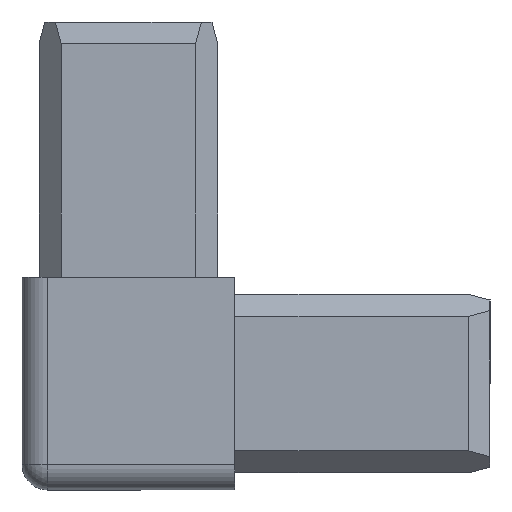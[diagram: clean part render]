
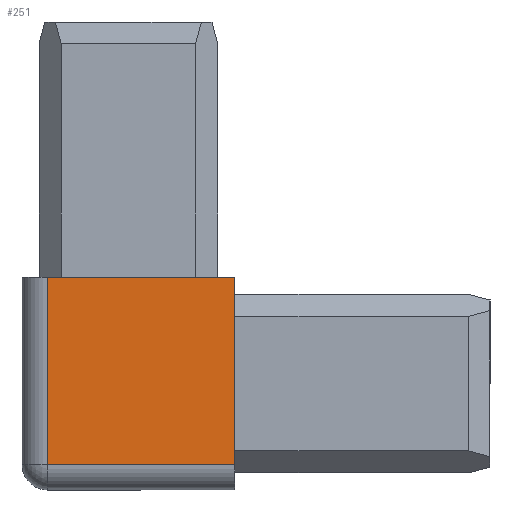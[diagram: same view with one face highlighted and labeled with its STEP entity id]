
A CAD part, left-side view. The second image highlights one B-rep face of the part: STEP entity #251.
In plain terms, the highlighted planar face has unit normal (-1, 0, 0).
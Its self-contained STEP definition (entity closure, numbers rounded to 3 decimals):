
#9 = LINE ( 'NONE', #721, #1585 ) ;
#10 = ORIENTED_EDGE ( 'NONE', *, *, #577, .T. ) ;
#20 = EDGE_CURVE ( 'NONE', #1169, #959, #911, .T. ) ;
#152 = DIRECTION ( 'NONE',  ( 0., 1., 0. ) ) ;
#169 = VERTEX_POINT ( 'NONE', #1376 ) ;
#192 = CARTESIAN_POINT ( 'NONE',  ( -12.5, -12.5, 12.5 ) ) ;
#251 = ADVANCED_FACE ( 'NONE', ( #313 ), #1254, .F. ) ;
#283 = LINE ( 'NONE', #1683, #617 ) ;
#313 = FACE_OUTER_BOUND ( 'NONE', #1773, .T. ) ;
#497 = CARTESIAN_POINT ( 'NONE',  ( -12.5, 9.5, 42.5 ) ) ;
#572 = CARTESIAN_POINT ( 'NONE',  ( -12.5, 9.5, 12.5 ) ) ;
#573 = CARTESIAN_POINT ( 'NONE',  ( -12.5, -12.5, -9.5 ) ) ;
#577 = EDGE_CURVE ( 'NONE', #169, #959, #9, .T. ) ;
#617 = VECTOR ( 'NONE', #1248, 1000. ) ;
#712 = AXIS2_PLACEMENT_3D ( 'NONE', #855, #1421, #152 ) ;
#721 = CARTESIAN_POINT ( 'NONE',  ( -12.5, 12.5, -9.5 ) ) ;
#741 = ORIENTED_EDGE ( 'NONE', *, *, #1301, .T. ) ;
#855 = CARTESIAN_POINT ( 'NONE',  ( -12.5, 12.5, 42.5 ) ) ;
#911 = LINE ( 'NONE', #192, #915 ) ;
#915 = VECTOR ( 'NONE', #1057, 1000. ) ;
#959 = VERTEX_POINT ( 'NONE', #573 ) ;
#970 = LINE ( 'NONE', #497, #1666 ) ;
#1031 = EDGE_CURVE ( 'NONE', #1706, #169, #970, .T. ) ;
#1057 = DIRECTION ( 'NONE',  ( 0., 0., -1. ) ) ;
#1124 = DIRECTION ( 'NONE',  ( 0., -1., 0. ) ) ;
#1169 = VERTEX_POINT ( 'NONE', #1210 ) ;
#1210 = CARTESIAN_POINT ( 'NONE',  ( -12.5, -12.5, 12.5 ) ) ;
#1216 = ORIENTED_EDGE ( 'NONE', *, *, #1031, .T. ) ;
#1248 = DIRECTION ( 'NONE',  ( 0., 1., 0. ) ) ;
#1254 = PLANE ( 'NONE',  #712 ) ;
#1301 = EDGE_CURVE ( 'NONE', #1169, #1706, #283, .T. ) ;
#1363 = ORIENTED_EDGE ( 'NONE', *, *, #20, .F. ) ;
#1376 = CARTESIAN_POINT ( 'NONE',  ( -12.5, 9.5, -9.5 ) ) ;
#1421 = DIRECTION ( 'NONE',  ( 1., 0., 0. ) ) ;
#1490 = DIRECTION ( 'NONE',  ( 0., 0., -1. ) ) ;
#1585 = VECTOR ( 'NONE', #1124, 1000. ) ;
#1666 = VECTOR ( 'NONE', #1490, 1000. ) ;
#1683 = CARTESIAN_POINT ( 'NONE',  ( -12.5, -42.5, 12.5 ) ) ;
#1706 = VERTEX_POINT ( 'NONE', #572 ) ;
#1773 = EDGE_LOOP ( 'NONE', ( #1216, #10, #1363, #741 ) ) ;
